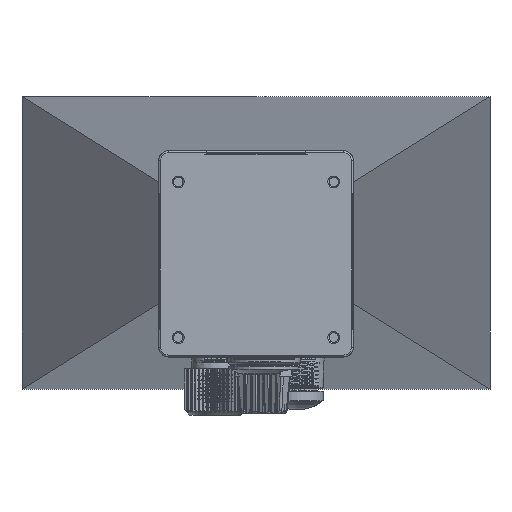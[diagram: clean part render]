
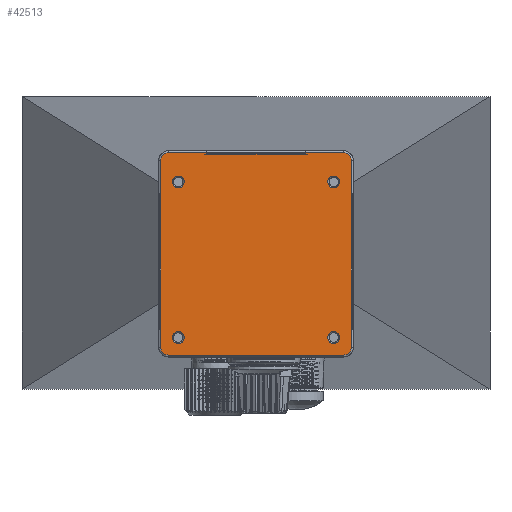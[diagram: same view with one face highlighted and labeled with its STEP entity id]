
A CAD part, left-side view. The second image highlights one B-rep face of the part: STEP entity #42513.
In plain terms, the highlighted planar face has unit normal (-1, 0, 0).
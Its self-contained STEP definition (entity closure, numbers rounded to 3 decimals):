
#1197=PLANE('',#45317);
#3585=LINE('',#67272,#6434);
#3647=LINE('',#67537,#6496);
#3651=LINE('',#67587,#6500);
#3652=LINE('',#67588,#6501);
#6434=VECTOR('',#52648,1000.);
#6496=VECTOR('',#52832,1000.);
#6500=VECTOR('',#52872,1000.);
#6501=VECTOR('',#52873,1000.);
#15031=ORIENTED_EDGE('',*,*,#21191,.F.);
#15032=ORIENTED_EDGE('',*,*,#21196,.F.);
#15033=ORIENTED_EDGE('',*,*,#21101,.F.);
#15034=ORIENTED_EDGE('',*,*,#21067,.F.);
#15035=ORIENTED_EDGE('',*,*,#21100,.F.);
#15036=ORIENTED_EDGE('',*,*,#21197,.F.);
#15037=ORIENTED_EDGE('',*,*,#21185,.F.);
#15038=ORIENTED_EDGE('',*,*,#21181,.F.);
#15039=ORIENTED_EDGE('',*,*,#21198,.T.);
#15040=ORIENTED_EDGE('',*,*,#21199,.T.);
#15041=ORIENTED_EDGE('',*,*,#21200,.T.);
#15042=ORIENTED_EDGE('',*,*,#21201,.T.);
#21067=EDGE_CURVE('',#24632,#24633,#3585,.T.);
#21100=EDGE_CURVE('',#24658,#24632,#26367,.T.);
#21101=EDGE_CURVE('',#24633,#24659,#26368,.T.);
#21181=EDGE_CURVE('',#24732,#24731,#3647,.T.);
#21185=EDGE_CURVE('',#24731,#24734,#26405,.T.);
#21191=EDGE_CURVE('',#24736,#24732,#26408,.T.);
#21196=EDGE_CURVE('',#24659,#24736,#3651,.T.);
#21197=EDGE_CURVE('',#24734,#24658,#3652,.T.);
#21198=EDGE_CURVE('',#24741,#24741,#26409,.T.);
#21199=EDGE_CURVE('',#24742,#24742,#26410,.T.);
#21200=EDGE_CURVE('',#24743,#24743,#26411,.T.);
#21201=EDGE_CURVE('',#24744,#24744,#26412,.T.);
#24632=VERTEX_POINT('',#67271);
#24633=VERTEX_POINT('',#67273);
#24658=VERTEX_POINT('',#67362);
#24659=VERTEX_POINT('',#67366);
#24731=VERTEX_POINT('',#67534);
#24732=VERTEX_POINT('',#67536);
#24734=VERTEX_POINT('',#67547);
#24736=VERTEX_POINT('',#67574);
#24741=VERTEX_POINT('',#67590);
#24742=VERTEX_POINT('',#67592);
#24743=VERTEX_POINT('',#67594);
#24744=VERTEX_POINT('',#67596);
#26367=CIRCLE('',#45254,2.);
#26368=CIRCLE('',#45256,2.);
#26405=CIRCLE('',#45303,2.);
#26408=CIRCLE('',#45310,2.);
#26409=CIRCLE('',#45318,1.53);
#26410=CIRCLE('',#45319,1.53);
#26411=CIRCLE('',#45320,1.53);
#26412=CIRCLE('',#45321,1.53);
#28163=EDGE_LOOP('',(#15031,#15032,#15033,#15034,#15035,#15036,#15037,#15038));
#28164=EDGE_LOOP('',(#15039));
#28165=EDGE_LOOP('',(#15040));
#28166=EDGE_LOOP('',(#15041));
#28167=EDGE_LOOP('',(#15042));
#30246=FACE_BOUND('',#28163,.T.);
#30247=FACE_BOUND('',#28164,.T.);
#30248=FACE_BOUND('',#28165,.T.);
#30249=FACE_BOUND('',#28166,.T.);
#30250=FACE_BOUND('',#28167,.T.);
#42513=ADVANCED_FACE('',(#30246,#30247,#30248,#30249,#30250),#1197,.F.);
#45254=AXIS2_PLACEMENT_3D('',#67363,#52698,#52699);
#45256=AXIS2_PLACEMENT_3D('',#67365,#52702,#52703);
#45303=AXIS2_PLACEMENT_3D('',#67548,#52840,#52841);
#45310=AXIS2_PLACEMENT_3D('',#67575,#52856,#52857);
#45317=AXIS2_PLACEMENT_3D('',#67586,#52870,#52871);
#45318=AXIS2_PLACEMENT_3D('',#67589,#52874,#52875);
#45319=AXIS2_PLACEMENT_3D('',#67591,#52876,#52877);
#45320=AXIS2_PLACEMENT_3D('',#67593,#52878,#52879);
#45321=AXIS2_PLACEMENT_3D('',#67595,#52880,#52881);
#52648=DIRECTION('',(0.,0.,-1.));
#52698=DIRECTION('',(1.,0.,0.));
#52699=DIRECTION('',(0.,0.,1.));
#52702=DIRECTION('',(1.,0.,0.));
#52703=DIRECTION('',(0.,0.,1.));
#52832=DIRECTION('',(0.,0.,1.));
#52840=DIRECTION('',(1.,0.,0.));
#52841=DIRECTION('',(0.,0.,1.));
#52856=DIRECTION('',(1.,0.,0.));
#52857=DIRECTION('',(0.,0.,1.));
#52870=DIRECTION('',(1.,0.,0.));
#52871=DIRECTION('',(0.,0.,1.));
#52872=DIRECTION('',(0.,1.,0.));
#52873=DIRECTION('',(0.,-1.,0.));
#52874=DIRECTION('',(1.,0.,0.));
#52875=DIRECTION('',(0.,-1.,0.));
#52876=DIRECTION('',(1.,0.,0.));
#52877=DIRECTION('',(0.,-1.,0.));
#52878=DIRECTION('',(1.,0.,0.));
#52879=DIRECTION('',(0.,-1.,0.));
#52880=DIRECTION('',(1.,0.,0.));
#52881=DIRECTION('',(0.,-1.,0.));
#67271=CARTESIAN_POINT('',(-50.01,-24.5,21.15));
#67272=CARTESIAN_POINT('',(-50.01,-24.5,23.65));
#67273=CARTESIAN_POINT('',(-50.01,-24.5,-26.85));
#67362=CARTESIAN_POINT('',(-50.01,-22.5,23.15));
#67363=CARTESIAN_POINT('',(-50.01,-22.5,21.15));
#67365=CARTESIAN_POINT('',(-50.01,-22.5,-26.85));
#67366=CARTESIAN_POINT('',(-50.01,-22.5,-28.85));
#67534=CARTESIAN_POINT('',(-50.01,24.5,21.15));
#67536=CARTESIAN_POINT('',(-50.01,24.5,-26.85));
#67537=CARTESIAN_POINT('',(-50.01,24.5,23.65));
#67547=CARTESIAN_POINT('',(-50.01,22.5,23.15));
#67548=CARTESIAN_POINT('',(-50.01,22.5,21.15));
#67574=CARTESIAN_POINT('',(-50.01,22.5,-28.85));
#67575=CARTESIAN_POINT('',(-50.01,22.5,-26.85));
#67586=CARTESIAN_POINT('',(-50.01,-25.,23.65));
#67587=CARTESIAN_POINT('',(-50.01,-25.,-28.85));
#67588=CARTESIAN_POINT('',(-50.01,-25.,23.15));
#67589=CARTESIAN_POINT('',(-50.01,20.,15.65));
#67590=CARTESIAN_POINT('',(-50.01,18.471,15.65));
#67591=CARTESIAN_POINT('',(-50.01,-20.,15.65));
#67592=CARTESIAN_POINT('',(-50.01,-21.53,15.65));
#67593=CARTESIAN_POINT('',(-50.01,-20.,-24.35));
#67594=CARTESIAN_POINT('',(-50.01,-21.53,-24.35));
#67595=CARTESIAN_POINT('',(-50.01,20.,-24.35));
#67596=CARTESIAN_POINT('',(-50.01,18.47,-24.35));
